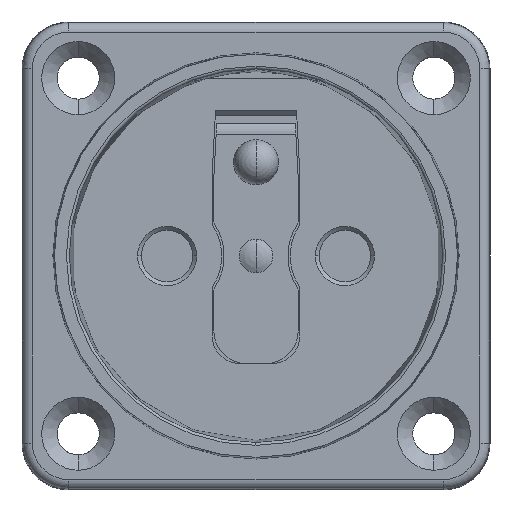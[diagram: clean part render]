
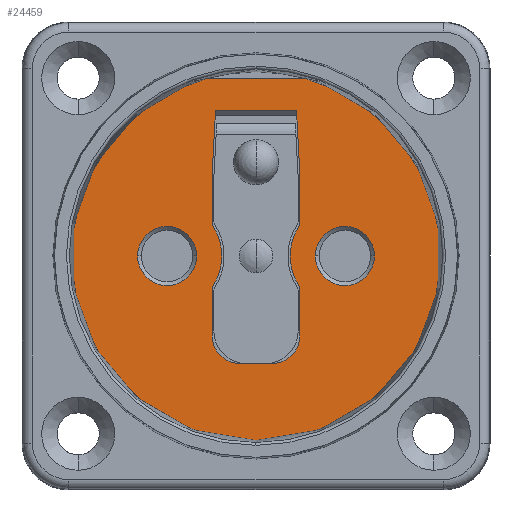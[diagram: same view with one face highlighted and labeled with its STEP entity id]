
A CAD part, top view. The second image highlights one B-rep face of the part: STEP entity #24459.
In plain terms, the highlighted planar face has unit normal (0, 0, 1).
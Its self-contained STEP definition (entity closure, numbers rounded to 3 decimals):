
#309=CARTESIAN_POINT('',(0.,0.,2.6));
#310=DIRECTION('',(0.,0.,-1.));
#311=DIRECTION('',(0.264,0.964,0.));
#312=AXIS2_PLACEMENT_3D('',#309,#310,#311);
#318=CARTESIAN_POINT('',(0.,0.,2.6));
#319=DIRECTION('',(0.,0.,-1.));
#320=DIRECTION('',(0.,-1.,0.));
#321=AXIS2_PLACEMENT_3D('',#318,#319,#320);
#326=CARTESIAN_POINT('',(-9.5,0.,2.6));
#327=DIRECTION('',(0.,0.,-1.));
#328=DIRECTION('',(-1.,0.,0.));
#329=AXIS2_PLACEMENT_3D('',#326,#327,#328);
#334=CARTESIAN_POINT('',(-9.5,0.,2.6));
#335=DIRECTION('',(0.,0.,-1.));
#336=DIRECTION('',(1.,0.,0.));
#337=AXIS2_PLACEMENT_3D('',#334,#335,#336);
#342=CARTESIAN_POINT('',(9.5,0.,2.6));
#343=DIRECTION('',(0.,0.,1.));
#344=DIRECTION('',(1.,0.,0.));
#345=AXIS2_PLACEMENT_3D('',#342,#343,#344);
#350=CARTESIAN_POINT('',(9.5,0.,2.6));
#351=DIRECTION('',(0.,0.,1.));
#352=DIRECTION('',(-1.,0.,0.));
#353=AXIS2_PLACEMENT_3D('',#350,#351,#352);
#358=DIRECTION('',(0.,-1.,0.));
#359=VECTOR('',#358,4.943);
#360=CARTESIAN_POINT('',(4.7,-3.557,2.6));
#361=LINE('5933',#360,#359);
#365=CARTESIAN_POINT('',(9.5,0.,2.6));
#366=DIRECTION('',(0.,0.,1.));
#367=DIRECTION('',(-0.84,0.543,0.));
#368=AXIS2_PLACEMENT_3D('',#365,#366,#367);
#373=DIRECTION('',(0.,-1.,0.));
#374=VECTOR('',#373,4.943);
#375=CARTESIAN_POINT('',(4.7,8.5,2.6));
#376=LINE('5932',#375,#374);
#380=DIRECTION('',(0.,1.,0.));
#381=VECTOR('',#380,4.943);
#382=CARTESIAN_POINT('',(-4.7,3.557,2.6));
#383=LINE('5931',#382,#381);
#387=CARTESIAN_POINT('',(-9.5,0.,2.6));
#388=DIRECTION('',(0.,0.,1.));
#389=DIRECTION('',(0.84,-0.543,0.));
#390=AXIS2_PLACEMENT_3D('',#387,#388,#389);
#395=DIRECTION('',(0.,1.,0.));
#396=VECTOR('',#395,4.943);
#397=CARTESIAN_POINT('',(-4.7,-8.5,2.6));
#398=LINE('5930',#397,#396);
#402=DIRECTION('',(-0.053,0.999,0.));
#403=VECTOR('',#402,0.318);
#404=CARTESIAN_POINT('',(-4.683,-8.817,2.6));
#405=LINE('4680',#404,#403);
#409=CARTESIAN_POINT('',(-1.7,-8.5,2.6));
#410=DIRECTION('',(0.,0.,1.));
#411=DIRECTION('',(-0.994,-0.106,0.));
#412=AXIS2_PLACEMENT_3D('',#409,#410,#411);
#417=DIRECTION('',(1.,0.,0.));
#418=VECTOR('',#417,3.4);
#419=CARTESIAN_POINT('',(-1.7,-11.5,2.6));
#420=LINE('4679',#419,#418);
#424=CARTESIAN_POINT('',(1.7,-8.5,2.6));
#425=DIRECTION('',(0.,0.,1.));
#426=DIRECTION('',(0.,-1.,0.));
#427=AXIS2_PLACEMENT_3D('',#424,#425,#426);
#432=DIRECTION('',(-0.053,-0.999,0.));
#433=VECTOR('',#432,0.318);
#434=CARTESIAN_POINT('',(4.7,-8.5,2.6));
#435=LINE('4681',#434,#433);
#8929=CARTESIAN_POINT('',(5.205,19.,2.6));
#8939=DIRECTION('',(-1.,0.,0.));
#8940=VECTOR('',#8939,10.41);
#8941=CARTESIAN_POINT('',(5.205,19.,2.6));
#8942=LINE('4808',#8941,#8940);
#8951=CARTESIAN_POINT('',(-5.205,19.,2.6));
#21685=CARTESIAN_POINT('',(-4.,-3.557,2.6));
#21686=DIRECTION('',(0.,0.,-1.));
#21687=DIRECTION('',(-1.,0.,0.));
#21688=AXIS2_PLACEMENT_3D('',#21685,#21686,#21687);
#21723=CARTESIAN_POINT('',(-4.,3.557,2.6));
#21724=DIRECTION('',(0.,0.,-1.));
#21725=DIRECTION('',(-0.84,-0.543,0.));
#21726=AXIS2_PLACEMENT_3D('',#21723,#21724,#21725);
#21759=DIRECTION('',(0.053,0.999,0.));
#21760=VECTOR('',#21759,7.008);
#21761=CARTESIAN_POINT('',(-4.7,8.5,2.6));
#21762=LINE('4814',#21761,#21760);
#21773=DIRECTION('',(-1.,0.,0.));
#21774=VECTOR('',#21773,8.658);
#21775=CARTESIAN_POINT('',(4.329,15.498,2.6));
#21776=LINE('4809',#21775,#21774);
#21808=DIRECTION('',(0.053,-0.999,0.));
#21809=VECTOR('',#21808,7.008);
#21810=CARTESIAN_POINT('',(4.329,15.498,2.6));
#21811=LINE('4813',#21810,#21809);
#21858=CARTESIAN_POINT('',(4.,3.557,2.6));
#21859=DIRECTION('',(0.,0.,-1.));
#21860=DIRECTION('',(1.,0.,0.));
#21861=AXIS2_PLACEMENT_3D('',#21858,#21859,#21860);
#21896=CARTESIAN_POINT('',(4.,-3.557,2.6));
#21897=DIRECTION('',(0.,0.,-1.));
#21898=DIRECTION('',(0.84,0.543,0.));
#21899=AXIS2_PLACEMENT_3D('',#21896,#21897,#21898);
#22017=CARTESIAN_POINT('',(-12.65,0.,2.6));
#22018=CARTESIAN_POINT('',(-6.35,0.,2.6));
#22019=VERTEX_POINT('',#22017);
#22020=VERTEX_POINT('',#22018);
#22025=CARTESIAN_POINT('',(12.65,0.,2.6));
#22026=CARTESIAN_POINT('',(6.35,0.,2.6));
#22027=VERTEX_POINT('',#22025);
#22028=VERTEX_POINT('',#22026);
#22137=CARTESIAN_POINT('',(-1.7,-11.5,2.6));
#22138=CARTESIAN_POINT('',(1.7,-11.5,2.6));
#22139=VERTEX_POINT('',#22137);
#22140=VERTEX_POINT('',#22138);
#22141=CARTESIAN_POINT('',(-4.683,-8.817,2.6));
#22142=CARTESIAN_POINT('',(-4.7,-8.5,2.6));
#22143=VERTEX_POINT('',#22141);
#22144=VERTEX_POINT('',#22142);
#22145=CARTESIAN_POINT('',(4.7,-8.5,2.6));
#22146=CARTESIAN_POINT('',(4.683,-8.817,2.6));
#22147=VERTEX_POINT('',#22145);
#22148=VERTEX_POINT('',#22146);
#22169=VERTEX_POINT('',#8929);
#22170=VERTEX_POINT('',#8951);
#22171=CARTESIAN_POINT('',(0.,-19.7,2.6));
#22172=VERTEX_POINT('',#22171);
#22287=CARTESIAN_POINT('',(4.329,15.498,2.6));
#22288=CARTESIAN_POINT('',(-4.329,15.498,2.6));
#22289=VERTEX_POINT('',#22287);
#22290=VERTEX_POINT('',#22288);
#22295=CARTESIAN_POINT('',(4.7,8.5,2.6));
#22296=VERTEX_POINT('',#22295);
#22297=CARTESIAN_POINT('',(-4.7,8.5,2.6));
#22298=VERTEX_POINT('',#22297);
#23354=CARTESIAN_POINT('',(-4.7,-3.557,2.6));
#23355=VERTEX_POINT('',#23354);
#23356=CARTESIAN_POINT('',(-4.7,3.557,2.6));
#23357=VERTEX_POINT('',#23356);
#23358=CARTESIAN_POINT('',(4.7,3.557,2.6));
#23359=VERTEX_POINT('',#23358);
#23360=CARTESIAN_POINT('',(4.7,-3.557,2.6));
#23361=VERTEX_POINT('',#23360);
#23362=CARTESIAN_POINT('',(4.588,3.177,2.6));
#23363=CARTESIAN_POINT('',(4.588,-3.177,2.6));
#23364=VERTEX_POINT('',#23362);
#23365=VERTEX_POINT('',#23363);
#23366=CARTESIAN_POINT('',(-4.588,-3.177,2.6));
#23367=CARTESIAN_POINT('',(-4.588,3.177,2.6));
#23368=VERTEX_POINT('',#23366);
#23369=VERTEX_POINT('',#23367);
#24396=CARTESIAN_POINT('',(0.,0.,2.6));
#24397=DIRECTION('',(0.,0.,1.));
#24398=DIRECTION('',(0.,-1.,0.));
#24399=AXIS2_PLACEMENT_3D('',#24396,#24397,#24398);
#24400=PLANE('3565',#24399);
#24402=ORIENTED_EDGE('4698',*,*,#24401,.T.);
#24404=ORIENTED_EDGE('4699',*,*,#24403,.T.);
#24406=ORIENTED_EDGE('4808',*,*,#24405,.F.);
#24407=EDGE_LOOP('3565',(#24402,#24404,#24406));
#24408=FACE_OUTER_BOUND('3565',#24407,.F.);
#24410=ORIENTED_EDGE('4599',*,*,#24409,.F.);
#24412=ORIENTED_EDGE('4600',*,*,#24411,.F.);
#24413=EDGE_LOOP('3565',(#24410,#24412));
#24414=FACE_BOUND('3565',#24413,.F.);
#24416=ORIENTED_EDGE('4603',*,*,#24415,.T.);
#24418=ORIENTED_EDGE('4604',*,*,#24417,.T.);
#24419=EDGE_LOOP('3565',(#24416,#24418));
#24420=FACE_BOUND('3565',#24419,.F.);
#24422=ORIENTED_EDGE('5933',*,*,#24421,.F.);
#24424=ORIENTED_EDGE('5937',*,*,#24423,.F.);
#24426=ORIENTED_EDGE('5934',*,*,#24425,.F.);
#24428=ORIENTED_EDGE('5936',*,*,#24427,.F.);
#24430=ORIENTED_EDGE('5932',*,*,#24429,.F.);
#24432=ORIENTED_EDGE('4813',*,*,#24431,.F.);
#24434=ORIENTED_EDGE('4809',*,*,#24433,.T.);
#24436=ORIENTED_EDGE('4814',*,*,#24435,.F.);
#24438=ORIENTED_EDGE('5931',*,*,#24437,.F.);
#24440=ORIENTED_EDGE('5938',*,*,#24439,.F.);
#24442=ORIENTED_EDGE('5935',*,*,#24441,.F.);
#24444=ORIENTED_EDGE('5939',*,*,#24443,.F.);
#24446=ORIENTED_EDGE('5930',*,*,#24445,.F.);
#24448=ORIENTED_EDGE('4680',*,*,#24447,.F.);
#24450=ORIENTED_EDGE('4683',*,*,#24449,.T.);
#24452=ORIENTED_EDGE('4679',*,*,#24451,.T.);
#24454=ORIENTED_EDGE('4682',*,*,#24453,.T.);
#24456=ORIENTED_EDGE('4681',*,*,#24455,.F.);
#24457=EDGE_LOOP('3565',(#24422,#24424,#24426,#24428,#24430,#24432,#24434,
#24436,#24438,#24440,#24442,#24444,#24446,#24448,#24450,#24452,#24454,#24456));
#24458=FACE_BOUND('3565',#24457,.F.);
#313=CIRCLE('4698',#312,19.7);
#322=CIRCLE('4699',#321,19.7);
#330=CIRCLE('4599',#329,3.15);
#338=CIRCLE('4600',#337,3.15);
#346=CIRCLE('4603',#345,3.15);
#354=CIRCLE('4604',#353,3.15);
#369=CIRCLE('5934',#368,5.85);
#391=CIRCLE('5935',#390,5.85);
#413=CIRCLE('4683',#412,3.);
#428=CIRCLE('4682',#427,3.);
#21689=CIRCLE('5939',#21688,0.7);
#21727=CIRCLE('5938',#21726,0.7);
#21862=CIRCLE('5936',#21861,0.7);
#21900=CIRCLE('5937',#21899,0.7);
#24401=EDGE_CURVE('4698',#22169,#22172,#313,.T.);
#24403=EDGE_CURVE('4699',#22172,#22170,#322,.T.);
#24405=EDGE_CURVE('4808',#22169,#22170,#8942,.T.);
#24409=EDGE_CURVE('4599',#22019,#22020,#330,.T.);
#24411=EDGE_CURVE('4600',#22020,#22019,#338,.T.);
#24415=EDGE_CURVE('4603',#22027,#22028,#346,.T.);
#24417=EDGE_CURVE('4604',#22028,#22027,#354,.T.);
#24421=EDGE_CURVE('5933',#23361,#22147,#361,.T.);
#24423=EDGE_CURVE('5937',#23365,#23361,#21900,.T.);
#24425=EDGE_CURVE('5934',#23364,#23365,#369,.T.);
#24427=EDGE_CURVE('5936',#23359,#23364,#21862,.T.);
#24429=EDGE_CURVE('5932',#22296,#23359,#376,.T.);
#24431=EDGE_CURVE('4813',#22289,#22296,#21811,.T.);
#24433=EDGE_CURVE('4809',#22289,#22290,#21776,.T.);
#24435=EDGE_CURVE('4814',#22298,#22290,#21762,.T.);
#24437=EDGE_CURVE('5931',#23357,#22298,#383,.T.);
#24439=EDGE_CURVE('5938',#23369,#23357,#21727,.T.);
#24441=EDGE_CURVE('5935',#23368,#23369,#391,.T.);
#24443=EDGE_CURVE('5939',#23355,#23368,#21689,.T.);
#24445=EDGE_CURVE('5930',#22144,#23355,#398,.T.);
#24447=EDGE_CURVE('4680',#22143,#22144,#405,.T.);
#24449=EDGE_CURVE('4683',#22143,#22139,#413,.T.);
#24451=EDGE_CURVE('4679',#22139,#22140,#420,.T.);
#24453=EDGE_CURVE('4682',#22140,#22148,#428,.T.);
#24455=EDGE_CURVE('4681',#22147,#22148,#435,.T.);
#24459=ADVANCED_FACE('3565',(#24408,#24414,#24420,#24458),#24400,.T.);
